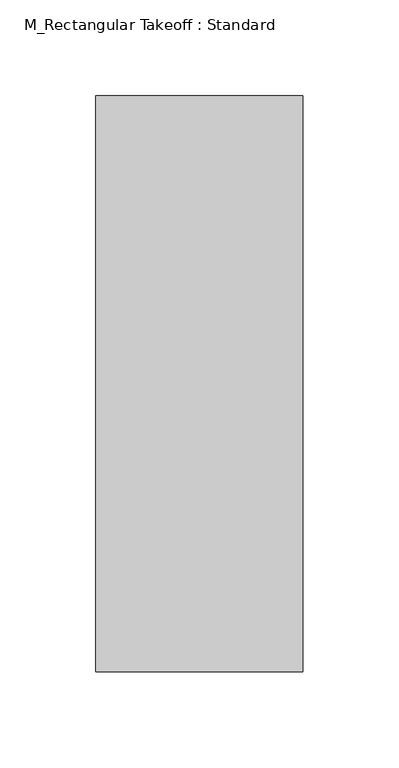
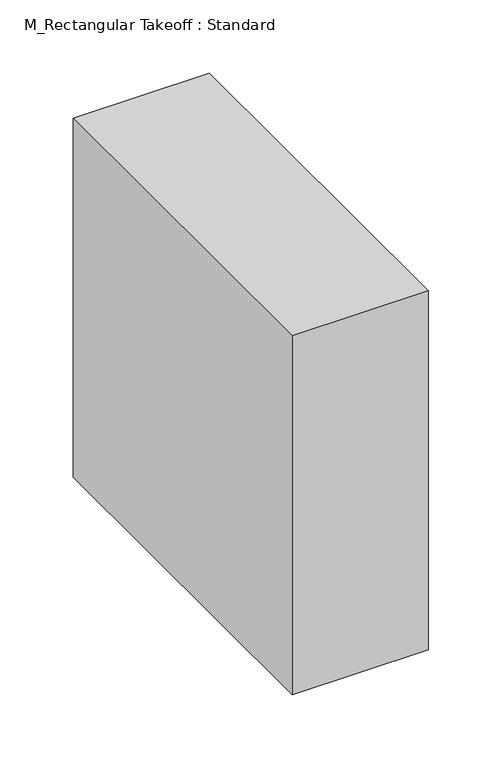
"""IFC4 building model written with IfcOpenShell, lengths in millimetres: duct fitting geometry, M_Rectangular Takeoff : Standard."""

from ifc_helpers import new_model, si_unit, frame, origin, place, context, project, spatial, polyline, outline, extrude, source, transform, mapped, element, save


def m_rectangular_takeoff_standard_2be5eba1(model_context):
    return source(origin(), model_context, "Body", "SweptSolid", [
        extrude(outline(polyline([(-6.096, 150.0), (101.6, 150.0), (101.6, -150.0), (-6.096, -150.0), (-6.096, 150.0)])), frame((0.0, 0.0, -150.0), z_axis=(0.0, 0.0, 1.0), x_axis=(1.0, 0.0, 0.0)), (0.0, 0.0, 1.0), 300.0),
    ])


if __name__ == "__main__":
    model = new_model("IFC4")
    model_context = context("Model", 3, world=origin())
    ifc_project = project(units=[si_unit("LENGTHUNIT", "METRE", prefix="MILLI")], contexts=[model_context])
    site = spatial("IfcSite", under=ifc_project)
    building = spatial("IfcBuilding", under=site)
    placement = place(None, origin())
    m_rectangular_takeoff_standard_shape = m_rectangular_takeoff_standard_2be5eba1(model_context)
    element("IfcDuctFitting", 1, ObjectType="M_Rectangular Takeoff : Standard", at=placement, inside=building, context=model_context, shape_type="MappedRepresentation", body=[
        mapped(m_rectangular_takeoff_standard_shape, transform((0.0, 0.0, 0.0), x_axis=(1.0, 0.0, 0.0), y_axis=(0.0, 1.0, 0.0), z_axis=(0.0, 0.0, 1.0))),
    ])
    save(model, "model.ifc")
